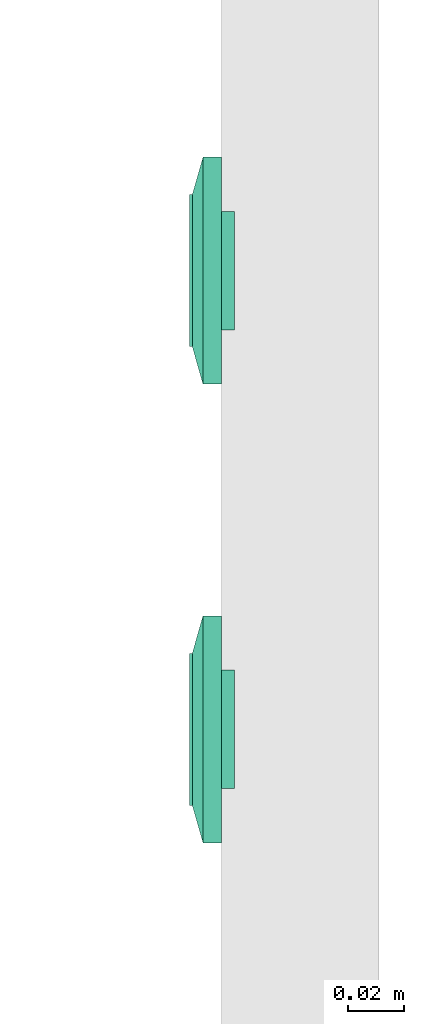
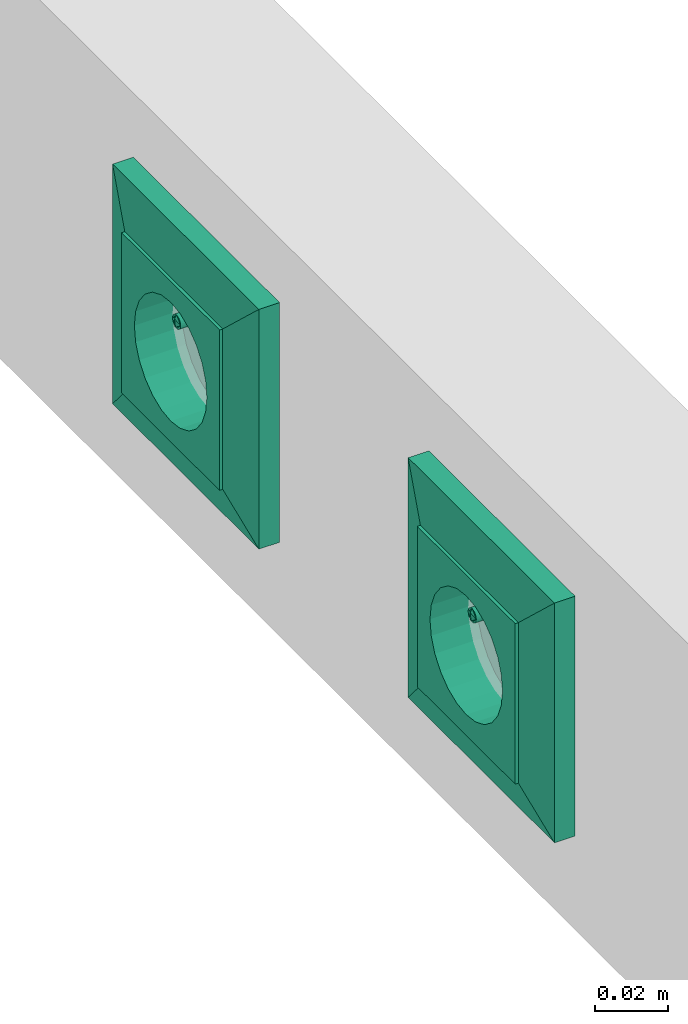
# One storey, part 22 of 166: 2 flow terminals.
"""IFC2X3 building model written with IfcOpenShell, lengths in metres."""

from ifc_helpers import new_model, entity, si_unit, converted_unit, derived_unit, direction, frame, origin, place, context, subcontext, project, spatial, face_set, surface_model, source, transform, mapped, type_object, type_shapes, element, save


model = new_model("IFC2X3")

# Units and contexts
model_context = context("Model", 3, precision=1e-05, world=origin(), true_north=direction((6.12303176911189e-17, 1.0)))
body_context = subcontext(model_context, "Body", "Model", "MODEL_VIEW")
ifc_project = project(units=[si_unit("LENGTHUNIT", "METRE"), si_unit("AREAUNIT", "SQUARE_METRE"), si_unit("VOLUMEUNIT", "CUBIC_METRE"), converted_unit("PLANEANGLEUNIT", "DEGREE", entity("IfcRatioMeasure", 0.0174532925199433), si_unit("PLANEANGLEUNIT", "RADIAN"), dimensions=[0, 0, 0, 0, 0, 0, 0]), si_unit("MASSUNIT", "GRAM", prefix="KILO"), derived_unit("MASSDENSITYUNIT", [(si_unit("MASSUNIT", "GRAM", prefix="KILO"), 1), (si_unit("LENGTHUNIT", "METRE"), -3)]), si_unit("TIMEUNIT", "SECOND"), si_unit("FREQUENCYUNIT", "HERTZ"), si_unit("THERMODYNAMICTEMPERATUREUNIT", "DEGREE_CELSIUS"), derived_unit("THERMALTRANSMITTANCEUNIT", [(si_unit("MASSUNIT", "GRAM", prefix="KILO"), 1), (si_unit("THERMODYNAMICTEMPERATUREUNIT", "KELVIN"), -1), (si_unit("TIMEUNIT", "SECOND"), -3)]), derived_unit("VOLUMETRICFLOWRATEUNIT", [(si_unit("LENGTHUNIT", "METRE"), 3), (si_unit("TIMEUNIT", "SECOND"), -1)]), si_unit("ELECTRICCURRENTUNIT", "AMPERE"), si_unit("ELECTRICVOLTAGEUNIT", "VOLT"), si_unit("POWERUNIT", "WATT"), si_unit("FORCEUNIT", "NEWTON"), si_unit("ILLUMINANCEUNIT", "LUX"), si_unit("LUMINOUSFLUXUNIT", "LUMEN"), si_unit("LUMINOUSINTENSITYUNIT", "CANDELA"), derived_unit("USERDEFINED", [(si_unit("MASSUNIT", "GRAM", prefix="KILO"), -1), (si_unit("LENGTHUNIT", "METRE"), -2), (si_unit("TIMEUNIT", "SECOND"), 3), (si_unit("LUMINOUSFLUXUNIT", "LUMEN"), 1)]), derived_unit("LINEARVELOCITYUNIT", [(si_unit("LENGTHUNIT", "METRE"), 1), (si_unit("TIMEUNIT", "SECOND"), -1)]), si_unit("PRESSUREUNIT", "PASCAL"), derived_unit("USERDEFINED", [(si_unit("LENGTHUNIT", "METRE"), -2), (si_unit("MASSUNIT", "GRAM", prefix="KILO"), 1), (si_unit("TIMEUNIT", "SECOND"), -2)])], contexts=[model_context])

# Site, building, storey
site_placement = place(None, origin())
site = spatial("IfcSite", under=ifc_project, at=site_placement, Name="Default", CompositionType="ELEMENT")
building_placement = place(site_placement, origin())
building = spatial("IfcBuilding", under=site, at=building_placement, CompositionType="ELEMENT")
storey_placement = place(building_placement, frame((0.0, 0.0, 4.27)))
storey = spatial("IfcBuildingStorey", under=building, at=storey_placement, Name="01", CompositionType="ELEMENT", Elevation=4.27)

# Flow terminals
light_fixture_type = type_object("IfcLightFixtureType", Name="IP20 ONDULEE", PredefinedType="NOTDEFINED")
shared_shape = source(origin(), body_context, "Body", "SurfaceModel", [
    surface_model("IfcFaceBasedSurfaceModel", [(-0.00225000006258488, 0.0127499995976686, 0.00949633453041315), (0.0, 0.0104999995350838, 0.00949633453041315), (0.0, 0.0115376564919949, 0.0101656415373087), (0.0, 0.0139623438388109, 0.0101656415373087), (0.0, 0.0144589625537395, 0.00984531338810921), (0.0, 0.0121178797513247, 0.0102778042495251), (0.0, 0.0133821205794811, 0.0102778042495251), (0.0, 0.0127499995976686, 0.010399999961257), (0.0, 0.0149999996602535, 0.00949633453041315), (0.00225000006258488, 0.0127499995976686, 0.00949633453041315), (0.0, 0.0110410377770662, 0.00984531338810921), (0.0, 0.0127499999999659, 0.00949633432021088), (0.00225000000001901, 0.0127499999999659, 0.00949633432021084), (0.00217333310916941, 0.0121676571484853, 0.00949633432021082), (0.00194855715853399, 0.0116249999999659, 0.00949633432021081), (0.00159099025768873, 0.0111590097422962, 0.00949633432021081), (0.001125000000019, 0.010801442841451, 0.00949633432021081), (0.00058234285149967, 0.0105766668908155, 0.00949633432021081), (0.0, 0.0104999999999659, 0.00949633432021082), (-0.000582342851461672, 0.0105766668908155, 0.00949633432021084), (-0.001124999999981, 0.010801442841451, 0.00949633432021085), (-0.00159099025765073, 0.0111590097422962, 0.00949633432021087), (-0.00194855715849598, 0.011624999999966, 0.00949633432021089), (-0.0021733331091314, 0.0121676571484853, 0.00949633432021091), (-0.00224999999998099, 0.012749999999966, 0.00949633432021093), (-0.00217333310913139, 0.0133323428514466, 0.00949633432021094), (-0.00194855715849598, 0.013874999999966, 0.00949633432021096), (-0.00159099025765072, 0.0143409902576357, 0.00949633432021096), (-0.00112499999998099, 0.0146985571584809, 0.00949633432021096), (-0.00058234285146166, 0.0149233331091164, 0.00949633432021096), (0.0, 0.0149999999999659, 0.00949633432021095), (0.000582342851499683, 0.0149233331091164, 0.00949633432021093), (0.00112500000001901, 0.0146985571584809, 0.00949633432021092), (0.00159099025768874, 0.0143409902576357, 0.00949633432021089), (0.001948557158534, 0.0138749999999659, 0.00949633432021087), (0.00217333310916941, 0.0133323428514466, 0.00949633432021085), (0.00225000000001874, 0.0127499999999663, -0.00360000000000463), (0.00217333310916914, 0.0121676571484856, -0.00360000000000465), (0.00194855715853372, 0.0116249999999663, -0.00360000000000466), (0.00159099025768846, 0.0111590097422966, -0.00360000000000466), (0.00112500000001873, 0.0108014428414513, -0.00360000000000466), (0.000582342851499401, 0.0105766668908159, -0.00360000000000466), (0.0, 0.0104999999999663, -0.00360000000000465), (-0.000582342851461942, 0.0105766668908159, -0.00360000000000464), (-0.00112499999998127, 0.0108014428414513, -0.00360000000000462), (-0.001590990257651, 0.0111590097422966, -0.0036000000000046), (-0.00194855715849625, 0.0116249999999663, -0.00360000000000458), (-0.00217333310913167, 0.0121676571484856, -0.00360000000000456), (-0.00224999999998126, 0.0127499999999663, -0.00360000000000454), (-0.00217333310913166, 0.013332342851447, -0.00360000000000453), (-0.00194855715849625, 0.0138749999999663, -0.00360000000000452), (-0.00159099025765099, 0.014340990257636, -0.00360000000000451), (-0.00112499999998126, 0.0146985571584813, -0.00360000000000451), (-0.000582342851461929, 0.0149233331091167, -0.00360000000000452), (0.0, 0.0149999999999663, -0.00360000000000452), (0.000582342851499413, 0.0149233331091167, -0.00360000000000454), (0.00112500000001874, 0.0146985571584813, -0.00360000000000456), (0.00159099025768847, 0.014340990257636, -0.00360000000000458), (0.00194855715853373, 0.0138749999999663, -0.0036000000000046), (0.00217333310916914, 0.013332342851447, -0.00360000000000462), (0.0270000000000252, 0.026999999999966, 0.0113999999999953), (-0.0269999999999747, 0.026999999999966, 0.0113999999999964), (-0.0269999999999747, -0.0270000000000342, 0.0113999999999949), (0.0270000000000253, -0.0270000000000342, 0.0113999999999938), (-0.0199999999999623, 0.0, 0.0113999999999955), (-0.0193185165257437, -0.00517638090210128, 0.0113999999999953), (-0.0173205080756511, -0.0100000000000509, 0.0113999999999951), (-0.0141421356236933, -0.0141421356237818, 0.011399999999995), (-0.00999999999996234, -0.0173205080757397, 0.0113999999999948), (-0.00517638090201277, -0.0193185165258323, 0.0113999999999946), (0.0, -0.0200000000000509, 0.0113999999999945), (0.00517638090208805, -0.0193185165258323, 0.0113999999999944), (0.0100000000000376, -0.0173205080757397, 0.0113999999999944), (0.0141421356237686, -0.0141421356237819, 0.0113999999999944), (0.0173205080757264, -0.010000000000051, 0.0113999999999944), (0.0193185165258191, -0.00517638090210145, 0.0113999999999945), (0.0200000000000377, 0.0, 0.0113999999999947), (0.0193185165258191, 0.00517638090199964, 0.0113999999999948), (0.0173205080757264, 0.0099999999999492, 0.011399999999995), (0.0141421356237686, 0.0141421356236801, 0.0113999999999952), (0.0100000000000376, 0.0173205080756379, 0.0113999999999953), (0.00517638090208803, 0.0193185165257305, 0.0113999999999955), (0.0, 0.0199999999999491, 0.0113999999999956), (-0.00517638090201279, 0.0193185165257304, 0.0113999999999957), (-0.00999999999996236, 0.0173205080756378, 0.0113999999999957), (-0.0141421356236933, 0.01414213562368, 0.0113999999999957), (-0.0173205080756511, 0.00999999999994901, 0.0113999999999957), (-0.0193185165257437, 0.00517638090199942, 0.0113999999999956), (0.0270000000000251, 0.0269999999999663, 0.00199999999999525), (0.0270000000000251, -0.0270000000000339, 0.00199999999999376), (-0.0269999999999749, -0.0270000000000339, 0.00199999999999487), (-0.0269999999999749, 0.0269999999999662, 0.00199999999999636), (0.0210000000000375, 0.0, 0.00199999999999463), (0.0202844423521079, -0.00543519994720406, 0.00199999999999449), (0.0181865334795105, -0.0105000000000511, 0.0019999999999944), (0.0148492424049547, -0.0148492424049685, 0.00199999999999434), (0.0105000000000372, -0.0181865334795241, 0.00199999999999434), (0.0054351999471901, -0.0202844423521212, 0.00199999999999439), (0.0, -0.0210000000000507, 0.00199999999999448), (-0.00543519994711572, -0.020284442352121, 0.00199999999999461), (-0.0104999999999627, -0.0181865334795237, 0.00199999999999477), (-0.0148492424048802, -0.014849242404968, 0.00199999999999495), (-0.0181865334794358, -0.0105000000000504, 0.00199999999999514), (-0.020284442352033, -0.00543519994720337, 0.00199999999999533), (-0.0209999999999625, 0.0, 0.00199999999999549), (-0.0202844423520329, 0.0054351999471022, 0.00199999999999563), (-0.0181865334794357, 0.0104999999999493, 0.00199999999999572), (-0.01484924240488, 0.0148492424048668, 0.00199999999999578), (-0.0104999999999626, 0.0181865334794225, 0.00199999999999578), (-0.00543519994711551, 0.0202844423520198, 0.00199999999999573), (0.0, 0.0209999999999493, 0.00199999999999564), (0.00543519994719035, 0.0202844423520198, 0.00199999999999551), (0.0105000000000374, 0.0181865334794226, 0.00199999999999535), (0.0148492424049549, 0.0148492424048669, 0.00199999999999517), (0.0181865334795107, 0.0104999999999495, 0.00199999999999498), (0.0202844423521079, 0.00543519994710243, 0.00199999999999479), (0.0200000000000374, 0.0, -0.00360000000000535), (0.0193185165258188, -0.00517638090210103, -0.00360000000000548), (0.0173205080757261, -0.0100000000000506, -0.00360000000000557), (0.0141421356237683, -0.0141421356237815, -0.00360000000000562), (0.0100000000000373, -0.0173205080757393, -0.00360000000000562), (0.00517638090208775, -0.0193185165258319, -0.00360000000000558), (0.0, -0.0200000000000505, -0.00360000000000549), (-0.00517638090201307, -0.0193185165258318, -0.00360000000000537), (-0.00999999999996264, -0.0173205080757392, -0.00360000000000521), (-0.0141421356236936, -0.0141421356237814, -0.00360000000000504), (-0.0173205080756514, -0.0100000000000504, -0.00360000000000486), (-0.019318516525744, -0.00517638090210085, -0.00360000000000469), (-0.0199999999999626, 0.0, -0.00360000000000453), (-0.0193185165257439, 0.00517638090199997, -0.0036000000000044), (-0.0173205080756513, 0.00999999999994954, -0.00360000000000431), (-0.0141421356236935, 0.0141421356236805, -0.00360000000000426), (-0.00999999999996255, 0.0173205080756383, -0.00360000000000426), (-0.00517638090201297, 0.0193185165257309, -0.0036000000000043), (0.0, 0.0199999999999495, -0.00360000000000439), (0.00517638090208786, 0.0193185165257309, -0.00360000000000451), (0.0100000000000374, 0.0173205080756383, -0.00360000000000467), (0.0141421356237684, 0.0141421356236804, -0.00360000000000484), (0.0173205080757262, 0.0099999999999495, -0.00360000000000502), (0.0193185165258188, 0.00517638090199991, -0.00360000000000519), (-0.0123499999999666, 0.0, -0.00360000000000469), (-0.0122562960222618, -0.000711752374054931, -0.00360000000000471), (-0.0119815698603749, -0.00137500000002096, -0.00360000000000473), (-0.0115445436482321, -0.00194454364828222, -0.00360000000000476), (-0.0109749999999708, -0.00238156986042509, -0.00360000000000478), (-0.0103117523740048, -0.00265629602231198, -0.0036000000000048), (-0.00959999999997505, -0.00275000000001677, -0.00360000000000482), (-0.0088882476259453, -0.00265629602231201, -0.00360000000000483), (-0.00822499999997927, -0.00238156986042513, -0.00360000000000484), (-0.00765545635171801, -0.00194454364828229, -0.00360000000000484), (-0.00721843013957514, -0.00137500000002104, -0.00360000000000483), (-0.00694370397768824, -0.000711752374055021, -0.00360000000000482), (-0.00684999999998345, 0.0, -0.0036000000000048), (-0.00694370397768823, 0.000711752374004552, -0.00360000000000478), (-0.00721843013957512, 0.00137499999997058, -0.00360000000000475), (-0.00765545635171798, 0.00194454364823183, -0.00360000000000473), (-0.00822499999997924, 0.00238156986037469, -0.0036000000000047), (-0.00888824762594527, 0.00265629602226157, -0.00360000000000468), (-0.00959999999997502, 0.00274999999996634, -0.00360000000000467), (-0.0103117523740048, 0.00265629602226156, -0.00360000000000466), (-0.0109749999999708, 0.00238156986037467, -0.00360000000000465), (-0.011544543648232, 0.00194454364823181, -0.00360000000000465), (-0.0119815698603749, 0.00137499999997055, -0.00360000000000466), (-0.0122562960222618, 0.000711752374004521, -0.00360000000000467), (0.00685000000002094, 0.0, -0.00360000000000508), (0.0069437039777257, -0.00071175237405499, -0.0036000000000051), (0.00721843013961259, -0.00137500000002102, -0.00360000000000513), (0.00765545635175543, -0.00194454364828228, -0.00360000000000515), (0.00822500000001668, -0.00238156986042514, -0.00360000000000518), (0.00888824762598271, -0.00265629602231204, -0.0036000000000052), (0.00960000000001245, -0.00275000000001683, -0.00360000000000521), (0.0103117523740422, -0.00265629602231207, -0.00360000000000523), (0.0109750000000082, -0.00238156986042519, -0.00360000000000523), (0.0115445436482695, -0.00194454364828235, -0.00360000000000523), (0.0119815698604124, -0.0013750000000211, -0.00360000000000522), (0.0122562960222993, -0.00071175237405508, -0.00360000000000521), (0.012350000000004, 0.0, -0.00360000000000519), (0.0122562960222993, 0.000711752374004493, -0.00360000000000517), (0.0119815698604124, 0.00137499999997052, -0.00360000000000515), (0.0115445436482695, 0.00194454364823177, -0.00360000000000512), (0.0109750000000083, 0.00238156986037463, -0.0036000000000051), (0.0103117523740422, 0.00265629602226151, -0.00360000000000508), (0.00960000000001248, 0.00274999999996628, -0.00360000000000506), (0.00888824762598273, 0.0026562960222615, -0.00360000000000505), (0.0082250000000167, 0.00238156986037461, -0.00360000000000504), (0.00765545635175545, 0.00194454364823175, -0.00360000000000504), (0.0072184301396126, 0.00137499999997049, -0.00360000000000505), (0.00694370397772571, 0.000711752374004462, -0.00360000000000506), (0.0210000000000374, 0.0, -0.00460000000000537), (0.0202844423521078, -0.00543519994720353, -0.00460000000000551), (0.0181865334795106, -0.0105000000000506, -0.0046000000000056), (0.0148492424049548, -0.0148492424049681, -0.00460000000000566), (0.0105000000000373, -0.0181865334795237, -0.00460000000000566), (0.00543519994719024, -0.0202844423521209, -0.00460000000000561), (0.0, -0.0210000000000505, -0.00460000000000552), (-0.00543519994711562, -0.0202844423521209, -0.00460000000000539), (-0.0104999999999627, -0.0181865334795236, -0.00460000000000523), (-0.0148492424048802, -0.0148492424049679, -0.00460000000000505), (-0.0181865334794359, -0.0105000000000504, -0.00460000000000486), (-0.0202844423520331, -0.00543519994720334, -0.00460000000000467), (-0.0209999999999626, 0.0, -0.00460000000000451), (-0.020284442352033, 0.00543519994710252, -0.00460000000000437), (-0.0181865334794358, 0.0104999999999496, -0.00460000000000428), (-0.0148492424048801, 0.0148492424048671, -0.00460000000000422), (-0.0104999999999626, 0.0181865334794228, -0.00460000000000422), (-0.00543519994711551, 0.02028444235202, -0.00460000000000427), (0.0, 0.0209999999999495, -0.00460000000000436), (0.00543519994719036, 0.02028444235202, -0.00460000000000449), (0.0105000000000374, 0.0181865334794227, -0.00460000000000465), (0.0148492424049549, 0.014849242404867, -0.00460000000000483), (0.0181865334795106, 0.0104999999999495, -0.00460000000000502), (0.0202844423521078, 0.00543519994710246, -0.00460000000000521), (-0.00684999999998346, 0.0, -0.0046000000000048), (-0.00694370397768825, 0.000711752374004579, -0.00460000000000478), (-0.00721843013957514, 0.00137499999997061, -0.00460000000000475), (-0.007655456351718, 0.00194454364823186, -0.00460000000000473), (-0.00822499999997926, 0.00238156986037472, -0.0046000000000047), (-0.00888824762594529, 0.0026562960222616, -0.00460000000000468), (-0.00959999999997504, 0.00274999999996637, -0.00460000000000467), (-0.0103117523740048, 0.00265629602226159, -0.00460000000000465), (-0.0109749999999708, 0.0023815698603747, -0.00460000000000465), (-0.0115445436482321, 0.00194454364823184, -0.00460000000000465), (-0.0119815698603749, 0.00137499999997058, -0.00460000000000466), (-0.0122562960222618, 0.000711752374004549, -0.00460000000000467), (-0.0123499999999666, 0.0, -0.00460000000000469), (-0.0122562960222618, -0.000711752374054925, -0.00460000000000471), (-0.0119815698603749, -0.00137500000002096, -0.00460000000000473), (-0.0115445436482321, -0.00194454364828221, -0.00460000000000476), (-0.0109749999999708, -0.00238156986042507, -0.00460000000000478), (-0.0103117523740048, -0.00265629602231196, -0.0046000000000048), (-0.00959999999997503, -0.00275000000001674, -0.00460000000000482), (-0.00888824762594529, -0.00265629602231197, -0.00460000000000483), (-0.00822499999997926, -0.00238156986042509, -0.00460000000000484), (-0.007655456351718, -0.00194454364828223, -0.00460000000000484), (-0.00721843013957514, -0.00137500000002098, -0.00460000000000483), (-0.00694370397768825, -0.000711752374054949, -0.00460000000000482), (0.012350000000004, 0.0, -0.00460000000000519), (0.0122562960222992, 0.000711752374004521, -0.00460000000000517), (0.0119815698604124, 0.00137499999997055, -0.00460000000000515), (0.0115445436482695, 0.0019445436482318, -0.00460000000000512), (0.0109750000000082, 0.00238156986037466, -0.0046000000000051), (0.0103117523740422, 0.00265629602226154, -0.00460000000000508), (0.00960000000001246, 0.00274999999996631, -0.00460000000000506), (0.00888824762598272, 0.00265629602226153, -0.00460000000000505), (0.00822500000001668, 0.00238156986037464, -0.00460000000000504), (0.00765545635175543, 0.00194454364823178, -0.00460000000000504), (0.00721843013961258, 0.00137499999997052, -0.00460000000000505), (0.00694370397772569, 0.00071175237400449, -0.00460000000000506), (0.00685000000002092, 0.0, -0.00460000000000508), (0.00694370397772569, -0.000711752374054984, -0.0046000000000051), (0.00721843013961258, -0.00137500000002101, -0.00460000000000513), (0.00765545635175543, -0.00194454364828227, -0.00460000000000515), (0.00822500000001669, -0.00238156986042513, -0.00460000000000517), (0.00888824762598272, -0.00265629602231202, -0.0046000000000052), (0.00960000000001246, -0.0027500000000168, -0.00460000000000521), (0.0103117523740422, -0.00265629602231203, -0.00460000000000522), (0.0109750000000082, -0.00238156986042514, -0.00460000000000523), (0.0115445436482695, -0.00194454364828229, -0.00460000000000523), (0.0119815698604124, -0.00137500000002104, -0.00460000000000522), (0.0122562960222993, -0.000711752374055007, -0.00460000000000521), (0.040350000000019, 0.0403499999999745, 0.00659999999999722), (0.040350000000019, -0.0403500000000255, 0.00659999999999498), (-0.0403499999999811, -0.0403500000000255, 0.00659999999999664), (-0.0403499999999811, 0.0403499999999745, 0.00659999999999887), (0.027000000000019, 0.0269999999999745, 0.00659999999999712), (-0.0269999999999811, 0.0269999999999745, 0.00659999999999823), (-0.026999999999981, -0.0270000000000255, 0.00659999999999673), (0.027000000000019, -0.0270000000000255, 0.00659999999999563), (0.027000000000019, 0.0269999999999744, 0.0103999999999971), (-0.026999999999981, 0.0269999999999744, 0.0103999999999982), (-0.026999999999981, -0.0270000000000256, 0.0103999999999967), (0.027000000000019, -0.0270000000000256, 0.0103999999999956), (0.040350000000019, 0.0403499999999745, 0.00659999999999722), (0.040350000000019, -0.0403500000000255, 0.00659999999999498), (-0.0403499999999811, -0.0403500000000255, 0.00659999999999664), (-0.0403499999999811, 0.0403499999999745, 0.00659999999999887), (-0.0269999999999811, 0.0269999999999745, 0.00659999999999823), (-0.0269999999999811, -0.0270000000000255, 0.00659999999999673), (0.0270000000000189, -0.0270000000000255, 0.00659999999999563), (0.0270000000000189, 0.0269999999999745, 0.00659999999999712), (0.0403500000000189, 0.0403499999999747, 0.0), (0.0403500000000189, -0.0403500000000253, 0.0), (-0.0403499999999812, -0.0403500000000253, 0.0), (-0.0403499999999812, 0.0403499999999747, 0.0), (0.0270000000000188, 0.0269999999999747, 0.0), (-0.0269999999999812, 0.0269999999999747, 0.0), (-0.0269999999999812, -0.0270000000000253, 0.0), (0.0270000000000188, -0.0270000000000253, 0.0)], [face_set([[[0, 1, 2]], [[3, 4, 2, 5]], [[6, 3, 5, 7]], [[2, 4, 0]], [[4, 8, 0]], [[3, 9, 8]], [[1, 9, 10]], [[2, 3, 6, 7]], [[3, 10, 9]], [[2, 10, 3]], [[11, 1, 0, 8]], [[11, 8, 9, 1]]]), face_set([[[12, 13, 14, 15, 16, 17, 18, 19, 20, 21, 22, 23, 24, 25, 26, 27, 28, 29, 30, 31, 32, 33, 34, 35]], [[36, 37, 38, 39, 40, 41, 42, 43, 44, 45, 46, 47, 48, 49, 50, 51, 52, 53, 54, 55, 56, 57, 58, 59]], [[48, 47, 23, 24]], [[47, 46, 22, 23]], [[45, 44, 20, 21]], [[46, 45, 21, 22]], [[44, 43, 19, 20]], [[18, 19, 43, 42]], [[42, 41, 17, 18]], [[41, 40, 16, 17]], [[39, 38, 14, 15]], [[40, 39, 15, 16]], [[38, 37, 13, 14]], [[12, 13, 37, 36]], [[36, 59, 35, 12]], [[59, 58, 34, 35]], [[57, 56, 32, 33]], [[58, 57, 33, 34]], [[56, 55, 31, 32]], [[30, 31, 55, 54]], [[54, 53, 29, 30]], [[53, 52, 28, 29]], [[51, 50, 26, 27]], [[52, 51, 27, 28]], [[50, 49, 25, 26]], [[24, 25, 49, 48]]]), face_set([[[60, 61, 62, 63], [64, 65, 66, 67, 68, 69, 70, 71, 72, 73, 74, 75, 76, 77, 78, 79, 80, 81, 82, 83, 84, 85, 86, 87]], [[88, 89, 90, 91], [92, 93, 94, 95, 96, 97, 98, 99, 100, 101, 102, 103, 104, 105, 106, 107, 108, 109, 110, 111, 112, 113, 114, 115]], [[61, 60, 88, 91]], [[62, 61, 91, 90]], [[63, 62, 90, 89]], [[60, 63, 89, 88]], [[116, 117, 118, 119, 120, 121, 122, 123, 124, 125, 126, 127, 128, 129, 130, 131, 132, 133, 134, 135, 136, 137, 138, 139], [140, 141, 142, 143, 144, 145, 146, 147, 148, 149, 150, 151, 152, 153, 154, 155, 156, 157, 158, 159, 160, 161, 162, 163], [164, 165, 166, 167, 168, 169, 170, 171, 172, 173, 174, 175, 176, 177, 178, 179, 180, 181, 182, 183, 184, 185, 186, 187]], [[64, 128, 127, 65]], [[65, 127, 126, 66]], [[67, 125, 124, 68]], [[66, 126, 125, 67]], [[68, 124, 123, 69]], [[122, 70, 69, 123]], [[70, 122, 121, 71]], [[71, 121, 120, 72]], [[73, 119, 118, 74]], [[72, 120, 119, 73]], [[74, 118, 117, 75]], [[116, 76, 75, 117]], [[76, 116, 139, 77]], [[77, 139, 138, 78]], [[79, 137, 136, 80]], [[78, 138, 137, 79]], [[80, 136, 135, 81]], [[134, 82, 81, 135]], [[82, 134, 133, 83]], [[83, 133, 132, 84]], [[84, 132, 131, 85]], [[85, 131, 130, 86]], [[130, 129, 87, 86]], [[64, 87, 129, 128]], [[188, 189, 190, 191, 192, 193, 194, 195, 196, 197, 198, 199, 200, 201, 202, 203, 204, 205, 206, 207, 208, 209, 210, 211], [212, 213, 214, 215, 216, 217, 218, 219, 220, 221, 222, 223, 224, 225, 226, 227, 228, 229, 230, 231, 232, 233, 234, 235], [236, 237, 238, 239, 240, 241, 242, 243, 244, 245, 246, 247, 248, 249, 250, 251, 252, 253, 254, 255, 256, 257, 258, 259]], [[200, 199, 103, 104]], [[199, 198, 102, 103]], [[197, 196, 100, 101]], [[198, 197, 101, 102]], [[196, 195, 99, 100]], [[98, 99, 195, 194]], [[194, 193, 97, 98]], [[193, 192, 96, 97]], [[191, 190, 94, 95]], [[192, 191, 95, 96]], [[190, 189, 93, 94]], [[92, 93, 189, 188]], [[188, 211, 115, 92]], [[211, 210, 114, 115]], [[209, 208, 112, 113]], [[210, 209, 113, 114]], [[208, 207, 111, 112]], [[110, 111, 207, 206]], [[206, 205, 109, 110]], [[205, 204, 108, 109]], [[203, 202, 106, 107]], [[204, 203, 107, 108]], [[202, 201, 105, 106]], [[104, 105, 201, 200]], [[141, 225, 226, 142]], [[140, 224, 225, 141]], [[144, 228, 229, 145]], [[143, 227, 228, 144]], [[142, 226, 227, 143]], [[230, 146, 145, 229]], [[149, 233, 232, 148]], [[148, 232, 231, 147]], [[152, 212, 235, 151]], [[151, 235, 234, 150]], [[150, 234, 233, 149]], [[146, 230, 231, 147]], [[154, 214, 213, 153]], [[153, 213, 212, 152]], [[157, 217, 216, 156]], [[156, 216, 215, 155]], [[155, 215, 214, 154]], [[218, 158, 157, 217]], [[160, 220, 221, 161]], [[159, 219, 220, 160]], [[163, 223, 224, 140]], [[162, 222, 223, 163]], [[161, 221, 222, 162]], [[158, 218, 219, 159]], [[166, 250, 249, 165]], [[165, 249, 248, 164]], [[169, 253, 252, 168]], [[168, 252, 251, 167]], [[167, 251, 250, 166]], [[254, 170, 169, 253]], [[172, 256, 257, 173]], [[171, 255, 256, 172]], [[175, 259, 236, 176]], [[174, 258, 259, 175]], [[173, 257, 258, 174]], [[170, 254, 255, 171]], [[177, 237, 238, 178]], [[176, 236, 237, 177]], [[180, 240, 241, 181]], [[179, 239, 240, 180]], [[178, 238, 239, 179]], [[242, 182, 181, 241]], [[185, 245, 244, 184]], [[184, 244, 243, 183]], [[164, 248, 247, 187]], [[187, 247, 246, 186]], [[186, 246, 245, 185]], [[182, 242, 243, 183]]]), face_set([[[260, 261, 262, 263], [264, 265, 266, 267]], [[260, 268, 269, 263]], [[263, 269, 270, 262]], [[262, 270, 271, 261]], [[261, 271, 268, 260]], [[264, 265, 269, 268]], [[265, 266, 270, 269]], [[266, 267, 271, 270]], [[268, 271, 267, 264]]]), face_set([[[272, 273, 274, 275], [276, 277, 278, 279]], [[280, 281, 282, 283], [284, 285, 286, 287]], [[275, 272, 280, 283]], [[274, 275, 283, 282]], [[273, 274, 282, 281]], [[272, 273, 281, 280]], [[284, 285, 276, 279]], [[285, 286, 277, 276]], [[286, 287, 278, 277]], [[279, 278, 287, 284]]])]),
])
type_shapes(light_fixture_type, [shared_shape])
for number, where, z_axis, x_axis in (
    (1, (29.3537440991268, -191.55310839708, 4.70800000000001), (-1.0, 0.0, 0.0), (0.0, -1.0, 0.0)),
    (2, (29.3537440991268, -191.71610839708, 4.70800000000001), (-1.0, 0.0, 0.0), (0.0, -1.0, 0.0)),
):
    element("IfcFlowTerminal", number, at=place(building_placement, frame(where, z_axis=z_axis, x_axis=x_axis)), inside=storey, type_object=light_fixture_type, Name="INT Prise de courant:IP20 ONDULEE", ObjectType="INT Prise de courant:IP20 ONDULEE", context=body_context, shape_type="MappedRepresentation", body=[
        mapped(shared_shape, transform((0.0, 0.0, 0.0), scale=1.0)),
    ])

save(model, "model.ifc")
